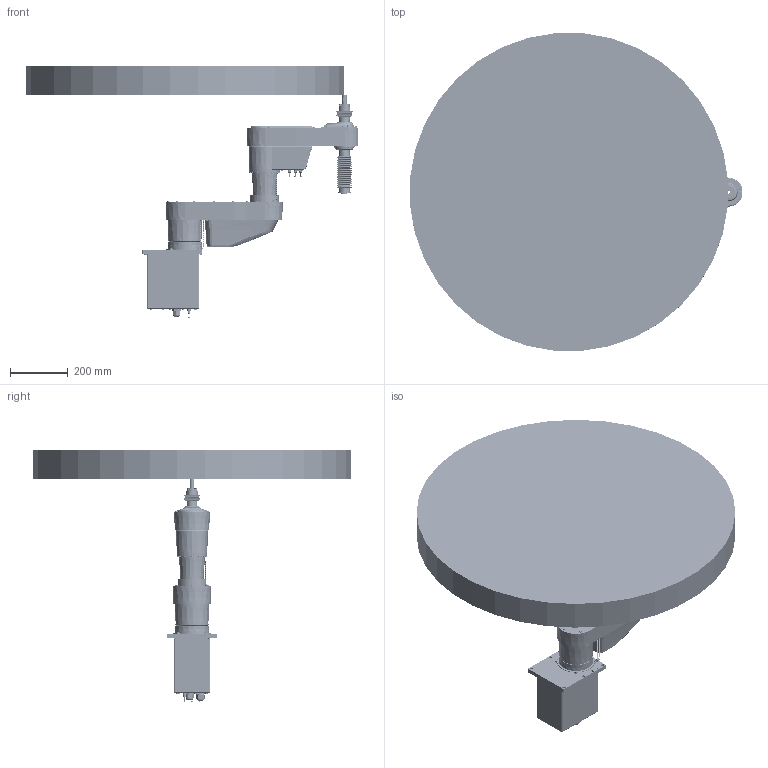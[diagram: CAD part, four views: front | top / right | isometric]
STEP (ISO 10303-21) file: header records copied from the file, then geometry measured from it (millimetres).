
FILE_DESCRIPTION (( 'STEP AP203' ), '1' );
FILE_NAME ('Python550F-C3C 1.22FB3.00.000.L.STEP', '2025-05-22T05:35:20', ( '' ), ( '' ), 'SwSTEP 2.0', 'SolidWorks 2021', '' );
FILE_SCHEMA (( 'CONFIG_CONTROL_DESIGN' ));
Length unit declared in the file: millimetre
Products named in the file (65): 内六角圆柱头螺钉 M3×8 12.9级碳钢镀镍  GBT70.1_M3*12; 菁釱窒煦; 葩璃 4445555^444775757575; PP4-管塞; 内六角圆柱头螺钉 M4×12 12.9级碳钢镀镍 GBT70.1_M4*6; 1.22FB3.21.001.K; ﾐ｡ｱｭﾍｷM3｡ﾁ10｡ﾁ4.5ﾍｷ; 复件 内六角圆柱头螺钉 M3×8  A2-70  GBT70.1^小臂部分_M3*8; 1.22FB3.23.005.G; 复件 内六角圆柱头螺钉 M4×12 A2-70  GBT70.1^小臂部分_M4*12; 标准型弹性垫圈(装配) 4×1.1 （A2）304  GB／T93_4*1.1; 复件 内六角圆柱头螺钉 M4×8 A2-70  GBT70.1^444775757575_M4*8; 孔塞; 内六角圆柱头螺钉、弹垫和平垫组合件德标 M4×12 A2-70 DIN912_M4*12; 内六角圆柱头螺钉 M3×20  A2-70  GBT70.1_M3*20; 1.22FB3.21.014.F; Python550F-C3馱釬諾潔; 1.22FB3.23.006.A; 1.22FB3.22.013.I; Python550F-C3C  1.22FB3.00.000.L; DB15諉芛; M22呿諉芛; 苤旋窒煦; 标准型弹性垫圈(装配) 3×0.8 （A2）304  GB／T93_3*0.8; 7777771111; Python550F-T6(.K)底座罩壳及接头装配体; Python550F-B3(.J)一轴减速机装配体; 葩璃 111222^444775757575; 1.22FB3.23.012.0; 内六角圆柱头螺钉 M4×30 A2-70  GBT70.1_M4*30; 1.22FB3.21.008.E; 1.22FB3.21.021.A; 1.22FB3.22.001.K; 内六角圆柱头螺钉 M4×8 12.9级碳钢镀镍 GBT70.1_M4*6; 1.22FB3.22.008.K; 1.22FB3.21.007.G; 1.22FB3.21.022.G; 复件 伸缩弹簧绳20cm^大臂部分; 扥坫粟銅汋20cm; 湍腑偌聽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
Assembly tree (227 placements, depth 5):
  Python550F-C3C  1.22FB3.00.000.L
    菁釱窒煦
      1.22FB3.21.001.K
      Python550F-T6(.K)底座罩壳及接头装配体
        1.22FB3.21.007.G
        1.22FB3.21.008.E
        1.22FB3.21.009.B
        2.00601.02.058.A APM4__3_  x3
        DB15諉芛
        M22呿諉芛  x2
          M22呿諉芛
          M22呿諉芛蹟簽
          呿諉芛蹟譫
        PP4-管塞  x3
        孔塞
        内六角圆柱头螺钉 M4×8 12.9级碳钢镀镍 GBT70.1_M4*6  x9
        内六角圆柱头螺钉 M3×8 12.9级碳钢镀镍  GBT70.1_M3*12  x7
      内六角圆柱头螺钉 M4×25 12.9级碳钢镀镍 GBT70.1_M4*6  x16
      1.22FB3.21.011.J
      标准型弹性垫圈(装配) 4×1.1 （A2）304  GB／T93_4*1.1  x2
      内六角圆柱头螺钉 M4×12 12.9级碳钢镀镍 GBT70.1_M4*6  x2
      平垫圈A级 4×0.8  （A2）304  GB／T97．1_4*0.8  x2
      内六角圆柱头螺钉 M4×8 12.9级碳钢镀镍 GBT70.1_M4*6  x4
      STM-0
      扥坫粟銅汋20cm
    湮旋窒煦
      Python550F-B3(.J)一轴减速机装配体
        1.22FB3.21.022.G
        7777771111
        内六角圆柱头螺钉 M4×30 A2-70  GBT70.1_M4*30  x12
      1.22FB3.21.013.S
      1.22FB3.21.016.H
      1.22FB3.21.014.F
      1.22FB3.21.021.A
      1.22FB3.22.013.I
      复件 内六角圆柱头螺钉 M4×8 A2-70  GBT70.1^大臂部分_M4*8  x23
      内六角圆柱头螺钉、弹垫和平垫组合件德标 M4×12 A2-70 DIN912_M4*12
      内六角圆柱头螺钉、弹垫和平垫组合件德标 M4×10 A2-70 DIN912_M4*10  x2
      复件 伸缩弹簧绳20cm^大臂部分  x2
    苤旋窒煦
      1.22FB3.22.007.L
      1.22FB3.22.008.K
      1.22FB3.22.001.K
      444775757575
        1.22FB3.22.014.F
        葩璃 4445555^444775757575  x3
        湍腑偌聽
        葩璃 111222^444775757575
        葩璃 44475757^444775757575  x3
        复件 内六角圆柱头螺钉 M4×8 A2-70  GBT70.1^444775757575_M4*8  x8
      1.22FB3.23.006.A
      47777577
      1.22FB3.22.012.F
      1.22FB3.23.005.G
      1.22FB3.23.012.0
      内六角圆柱头螺钉 M4×16 A2-70  GBT70.1_M4*16  x12
      复件 内六角圆柱头螺钉 M4×12 A2-70  GBT70.1^小臂部分_M4*12  x11
      内六角圆柱头螺钉 M4×10 A2-70  GBT70.1_M4*10  x5
      复件 内六角圆柱头螺钉 M3×8  A2-70  GBT70.1^小臂部分_M3*8  x2
      内六角圆柱头螺钉 M3×20  A2-70  GBT70.1_M3*20  x16
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Bounding box: 1145.22 x 1096.45 x 868 mm (x, y, z)
Volume: 98293621.9 mm3; surface area: 4201487.1 mm2
Topology: 251 solids, 398 shells, 9032 faces, 21233 edges, 13131 vertices
Faces by surface type: cylinder 3014, plane 2847, cone 1564, torus 965, bspline 454, sphere 188
Entity records: 292127 total; most frequent: CARTESIAN_POINT 147674, DIRECTION 29412, ORIENTED_EDGE 26288, EDGE_CURVE 13348, AXIS2_PLACEMENT_3D 12155, VERTEX_POINT 8435, EDGE_LOOP 6853, CIRCLE 6663
